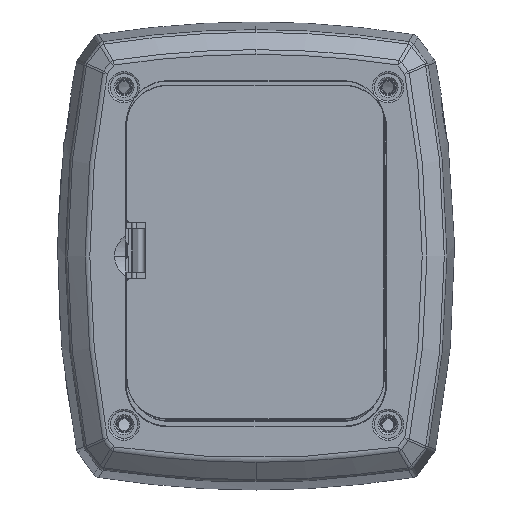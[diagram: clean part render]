
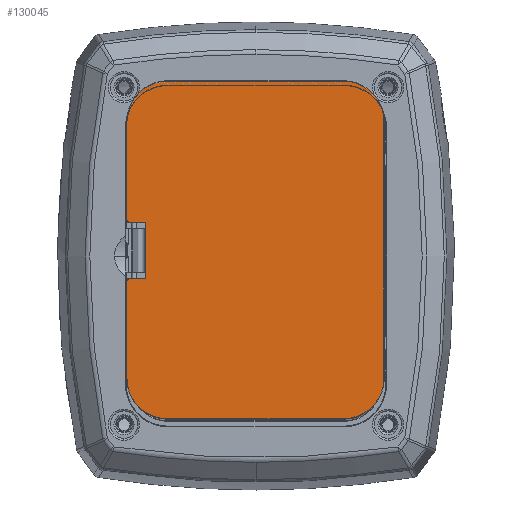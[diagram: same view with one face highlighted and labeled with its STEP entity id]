
A CAD part, front view. The second image highlights one B-rep face of the part: STEP entity #130045.
In plain terms, the highlighted planar face has unit normal (0, -1, 0) as drawn and (0, 0, -1) by its records, which use the part's own axes.
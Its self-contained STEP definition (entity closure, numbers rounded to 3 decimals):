
#31856 = ORIENTED_EDGE ( 'NONE', *, *, #131221, .T. ) ;
#45890 = DIRECTION ( 'NONE',  ( 1., 0., 0. ) ) ;
#45891 = DIRECTION ( 'NONE',  ( 0., 0., -1. ) ) ;
#45892 = CARTESIAN_POINT ( 'NONE',  ( -8.5, -34.3, 0. ) ) ;
#45893 = AXIS2_PLACEMENT_3D ( 'NONE', #45892, #45891, #45890 ) ;
#45894 = CIRCLE ( 'NONE', #45893, 0.9 ) ;
#45895 = CARTESIAN_POINT ( 'NONE',  ( -8.5, -35.2, 0. ) ) ;
#45896 = DIRECTION ( 'NONE',  ( 1., 0., 0. ) ) ;
#45897 = DIRECTION ( 'NONE',  ( 0., 0., 1. ) ) ;
#45898 = CARTESIAN_POINT ( 'NONE',  ( -34.8, 23.8, 0. ) ) ;
#45899 = AXIS2_PLACEMENT_3D ( 'NONE', #45898, #45897, #45896 ) ;
#45900 = PLANE ( 'NONE',  #45899 ) ;
#45901 = FACE_OUTER_BOUND ( 'NONE', #130046, .T. ) ;
#45902 = CARTESIAN_POINT ( 'NONE',  ( -7.6, -34.3, 0. ) ) ;
#45903 = DIRECTION ( 'NONE',  ( 0., -1., 0. ) ) ;
#45904 = VECTOR ( 'NONE', #45903, 1000. ) ;
#45905 = CARTESIAN_POINT ( 'NONE',  ( -7.6, 23.8, 0. ) ) ;
#45906 = LINE ( 'NONE', #45905, #45904 ) ;
#45911 = CARTESIAN_POINT ( 'NONE',  ( -7.6, -30.1, 0. ) ) ;
#45944 = DIRECTION ( 'NONE',  ( -1., 0., 0. ) ) ;
#45945 = VECTOR ( 'NONE', #45944, 1000. ) ;
#45946 = CARTESIAN_POINT ( 'NONE',  ( -34.8, -35.2, 0. ) ) ;
#45947 = LINE ( 'NONE', #45946, #45945 ) ;
#48031 = DIRECTION ( 'NONE',  ( -1., 0., 0. ) ) ;
#48032 = VECTOR ( 'NONE', #48031, 1000. ) ;
#48033 = CARTESIAN_POINT ( 'NONE',  ( -34.8, -30.1, 0. ) ) ;
#48034 = LINE ( 'NONE', #48033, #48032 ) ;
#48166 = CARTESIAN_POINT ( 'NONE',  ( 7.6, -34.3, 0. ) ) ;
#48167 = DIRECTION ( 'NONE',  ( 1., 0., 0. ) ) ;
#48168 = DIRECTION ( 'NONE',  ( 0., 0., -1. ) ) ;
#48169 = CARTESIAN_POINT ( 'NONE',  ( 8.5, -34.3, 0. ) ) ;
#48170 = AXIS2_PLACEMENT_3D ( 'NONE', #48169, #48168, #48167 ) ;
#48179 = CIRCLE ( 'NONE', #48170, 0.9 ) ;
#48355 = DIRECTION ( 'NONE',  ( 1., 0., 0. ) ) ;
#48356 = DIRECTION ( 'NONE',  ( 0., 0., -1. ) ) ;
#48357 = CARTESIAN_POINT ( 'NONE',  ( 35.1, -24.1, 0. ) ) ;
#48358 = AXIS2_PLACEMENT_3D ( 'NONE', #48357, #48356, #48355 ) ;
#48359 = CIRCLE ( 'NONE', #48358, 11.1 ) ;
#48366 = CARTESIAN_POINT ( 'NONE',  ( 7.6, -30.1, 0. ) ) ;
#48437 = DIRECTION ( 'NONE',  ( 0., 1., 0. ) ) ;
#48438 = VECTOR ( 'NONE', #48437, 1000. ) ;
#48439 = CARTESIAN_POINT ( 'NONE',  ( 7.6, 23.8, 0. ) ) ;
#48440 = LINE ( 'NONE', #48439, #48438 ) ;
#51949 = DIRECTION ( 'NONE',  ( 0., 0., -1. ) ) ;
#52271 = DIRECTION ( 'NONE',  ( 1., 0., 0. ) ) ;
#52766 = CARTESIAN_POINT ( 'NONE',  ( -34.8, 23.8, 0. ) ) ;
#52767 = AXIS2_PLACEMENT_3D ( 'NONE', #52766, #51949, #52271 ) ;
#52768 = CIRCLE ( 'NONE', #52767, 11.1 ) ;
#53030 = CARTESIAN_POINT ( 'NONE',  ( 46.2, 23.8, 0. ) ) ;
#53031 = DIRECTION ( 'NONE',  ( 1., 0., 0. ) ) ;
#53032 = DIRECTION ( 'NONE',  ( 0., 0., -1. ) ) ;
#53033 = CARTESIAN_POINT ( 'NONE',  ( 35.1, 23.8, 0. ) ) ;
#53034 = AXIS2_PLACEMENT_3D ( 'NONE', #53033, #53032, #53031 ) ;
#53035 = CIRCLE ( 'NONE', #53034, 11.1 ) ;
#53036 = CARTESIAN_POINT ( 'NONE',  ( 46.2, -24.1, 0. ) ) ;
#53071 = CARTESIAN_POINT ( 'NONE',  ( 35.1, 34.9, 0. ) ) ;
#53072 = DIRECTION ( 'NONE',  ( 1., 0., 0. ) ) ;
#53073 = VECTOR ( 'NONE', #53072, 1000. ) ;
#53074 = CARTESIAN_POINT ( 'NONE',  ( -34.8, 34.9, 0. ) ) ;
#53075 = LINE ( 'NONE', #53074, #53073 ) ;
#53081 = CARTESIAN_POINT ( 'NONE',  ( -45.9, 23.8, 0. ) ) ;
#53082 = DIRECTION ( 'NONE',  ( 0., 1., 0. ) ) ;
#53083 = VECTOR ( 'NONE', #53082, 1000. ) ;
#53085 = CARTESIAN_POINT ( 'NONE',  ( -45.9, 23.8, 0. ) ) ;
#53086 = LINE ( 'NONE', #53085, #53083 ) ;
#53172 = CARTESIAN_POINT ( 'NONE',  ( -34.8, 34.9, 0. ) ) ;
#53173 = DIRECTION ( 'NONE',  ( 0., -1., 0. ) ) ;
#53174 = VECTOR ( 'NONE', #53173, 1000. ) ;
#53175 = CARTESIAN_POINT ( 'NONE',  ( 46.2, 23.8, 0. ) ) ;
#53176 = LINE ( 'NONE', #53175, #53174 ) ;
#95975 = CARTESIAN_POINT ( 'NONE',  ( 8.5, -35.2, 0. ) ) ;
#95976 = LINE ( 'NONE', #96037, #96036 ) ;
#96034 = CARTESIAN_POINT ( 'NONE',  ( 35.1, -35.2, 0. ) ) ;
#96035 = DIRECTION ( 'NONE',  ( -1., 0., 0. ) ) ;
#96036 = VECTOR ( 'NONE', #96035, 1000. ) ;
#96037 = CARTESIAN_POINT ( 'NONE',  ( -34.8, -35.2, 0. ) ) ;
#112616 = CARTESIAN_POINT ( 'NONE',  ( -34.8, -35.2, 0. ) ) ;
#112668 = CARTESIAN_POINT ( 'NONE',  ( -45.9, -24.1, 0. ) ) ;
#112669 = DIRECTION ( 'NONE',  ( 1., 0., 0. ) ) ;
#112670 = DIRECTION ( 'NONE',  ( 0., 0., -1. ) ) ;
#112671 = AXIS2_PLACEMENT_3D ( 'NONE', #112678, #112670, #112669 ) ;
#112672 = CIRCLE ( 'NONE', #112671, 11.1 ) ;
#112678 = CARTESIAN_POINT ( 'NONE',  ( -34.8, -24.1, 0. ) ) ;
#130039 = VERTEX_POINT ( 'NONE', #45911 ) ;
#130042 = ORIENTED_EDGE ( 'NONE', *, *, #130043, .T. ) ;
#130043 = EDGE_CURVE ( 'NONE', #130039, #130044, #45906, .T. ) ;
#130044 = VERTEX_POINT ( 'NONE', #45902 ) ;
#130045 = ADVANCED_FACE ( 'NONE', ( #45901 ), #45900, .F. ) ;
#130046 = EDGE_LOOP ( 'NONE', ( #130042, #130048, #130057, #143474, #31856, #131269, #131282, #131191, #131264, #130521, #130504, #130481, #130527, #130499 ) ) ;
#130047 = VERTEX_POINT ( 'NONE', #45895 ) ;
#130048 = ORIENTED_EDGE ( 'NONE', *, *, #130049, .T. ) ;
#130049 = EDGE_CURVE ( 'NONE', #130044, #130047, #45894, .T. ) ;
#130057 = ORIENTED_EDGE ( 'NONE', *, *, #130058, .T. ) ;
#130058 = EDGE_CURVE ( 'NONE', #130047, #143471, #45947, .T. ) ;
#130376 = EDGE_CURVE ( 'NONE', #130498, #130039, #48034, .T. ) ;
#130424 = EDGE_CURVE ( 'NONE', #139154, #130425, #48179, .T. ) ;
#130425 = VERTEX_POINT ( 'NONE', #48166 ) ;
#130481 = ORIENTED_EDGE ( 'NONE', *, *, #130424, .T. ) ;
#130498 = VERTEX_POINT ( 'NONE', #48366 ) ;
#130499 = ORIENTED_EDGE ( 'NONE', *, *, #130376, .T. ) ;
#130503 = EDGE_CURVE ( 'NONE', #131197, #139157, #48359, .T. ) ;
#130504 = ORIENTED_EDGE ( 'NONE', *, *, #139156, .T. ) ;
#130521 = ORIENTED_EDGE ( 'NONE', *, *, #130503, .T. ) ;
#130527 = ORIENTED_EDGE ( 'NONE', *, *, #130529, .T. ) ;
#130529 = EDGE_CURVE ( 'NONE', #130425, #130498, #48440, .T. ) ;
#131191 = ORIENTED_EDGE ( 'NONE', *, *, #131198, .T. ) ;
#131197 = VERTEX_POINT ( 'NONE', #53036 ) ;
#131198 = EDGE_CURVE ( 'NONE', #131226, #131201, #53035, .T. ) ;
#131201 = VERTEX_POINT ( 'NONE', #53030 ) ;
#131207 = EDGE_CURVE ( 'NONE', #131222, #131270, #52768, .T. ) ;
#131221 = EDGE_CURVE ( 'NONE', #143481, #131222, #53086, .T. ) ;
#131222 = VERTEX_POINT ( 'NONE', #53081 ) ;
#131225 = EDGE_CURVE ( 'NONE', #131270, #131226, #53075, .T. ) ;
#131226 = VERTEX_POINT ( 'NONE', #53071 ) ;
#131264 = ORIENTED_EDGE ( 'NONE', *, *, #131267, .T. ) ;
#131267 = EDGE_CURVE ( 'NONE', #131201, #131197, #53176, .T. ) ;
#131269 = ORIENTED_EDGE ( 'NONE', *, *, #131207, .T. ) ;
#131270 = VERTEX_POINT ( 'NONE', #53172 ) ;
#131282 = ORIENTED_EDGE ( 'NONE', *, *, #131225, .T. ) ;
#139154 = VERTEX_POINT ( 'NONE', #95975 ) ;
#139156 = EDGE_CURVE ( 'NONE', #139157, #139154, #95976, .T. ) ;
#139157 = VERTEX_POINT ( 'NONE', #96034 ) ;
#143471 = VERTEX_POINT ( 'NONE', #112616 ) ;
#143474 = ORIENTED_EDGE ( 'NONE', *, *, #143479, .T. ) ;
#143479 = EDGE_CURVE ( 'NONE', #143471, #143481, #112672, .T. ) ;
#143481 = VERTEX_POINT ( 'NONE', #112668 ) ;
